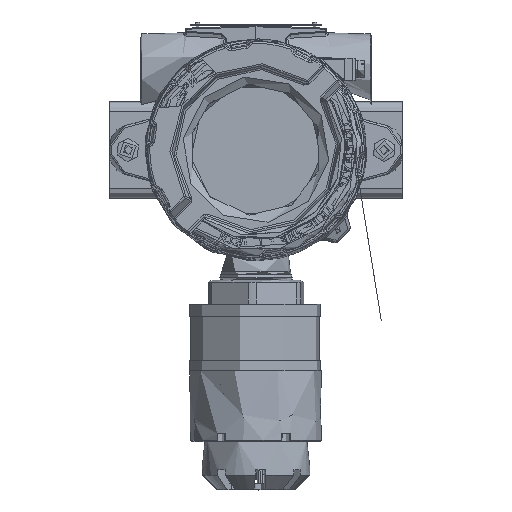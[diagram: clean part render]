
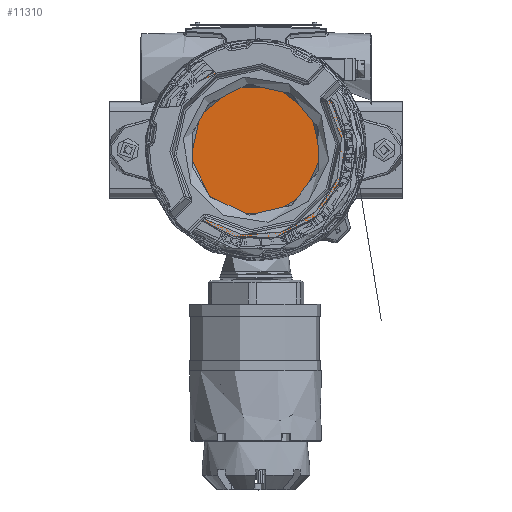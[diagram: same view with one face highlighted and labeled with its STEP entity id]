
A CAD part, top view. The second image highlights one B-rep face of the part: STEP entity #11310.
In plain terms, the highlighted planar face has unit normal (0, 0, 1) as drawn and (1, 0, 0) by its records, which use the part's own axes.
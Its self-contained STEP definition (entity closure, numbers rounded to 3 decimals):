
#11310=ADVANCED_FACE('',(#56168),#56170,.F.);
#56168=FACE_BOUND('',#56169,.T.);
#56169=EDGE_LOOP('',(#88211,#88212));
#56170=PLANE('',#56171);
#56171=AXIS2_PLACEMENT_3D('',#56172,#56173,#56174);
#56172=CARTESIAN_POINT('',(0.,0.,0.));
#56173=DIRECTION('',(-1.,0.,0.));
#56174=DIRECTION('',(0.,-1.,0.));
#88211=ORIENTED_EDGE('',*,*,#113011,.T.);
#88212=ORIENTED_EDGE('',*,*,#113012,.T.);
#113011=EDGE_CURVE('',#125873,#125874,#125875,.F.);
#113012=EDGE_CURVE('',#125874,#125873,#125876,.F.);
#125873=VERTEX_POINT('',#162895);
#125874=VERTEX_POINT('',#162896);
#125875=CIRCLE('',#162897,44.5);
#125876=CIRCLE('',#162901,44.5);
#162895=CARTESIAN_POINT('',(0.,-44.5,0.));
#162896=CARTESIAN_POINT('',(0.,31.466,-31.466));
#162897=AXIS2_PLACEMENT_3D('',#162898,#162899,#162900);
#162898=CARTESIAN_POINT('',(0.,0.,0.));
#162899=DIRECTION('',(-1.,0.,0.));
#162900=DIRECTION('',(0.,0.707,-0.707));
#162901=AXIS2_PLACEMENT_3D('',#162902,#162903,#162904);
#162902=CARTESIAN_POINT('',(0.,0.,0.));
#162903=DIRECTION('',(-1.,0.,0.));
#162904=DIRECTION('',(0.,-1.,0.));
